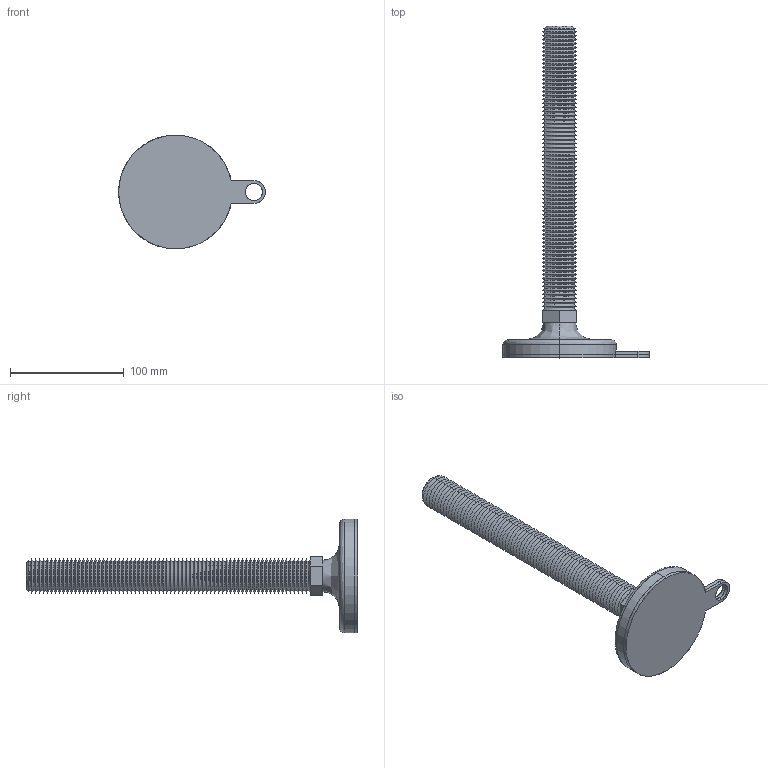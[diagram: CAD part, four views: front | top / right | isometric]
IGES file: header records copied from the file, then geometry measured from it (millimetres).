
Start section: SolidWorks IGES file using analytic representation for surfaces
Global section: file name: C:\Users\liam_\OneDrive\Documents\WORK\Work for WixRoyd\Job Files\J-00026 - Matt Davis CAD - 20191124\04. CAD Drawings\Wixroyd20191124\34704_v2\34704_v2_20191128_IGES\34704.W3003.igs; native system: SolidWorks 2017; preprocessor: SolidWorks 2017; author: liam_; date: 191128.203147; units: millimetre
Bounding box: 129 x 292 x 100 mm (x, y, z)
Surface area: 82213.8 mm2 (no closed solid volume)
Topology: 0 solids, 0 shells, 324 faces, 1946 edges, 1946 vertices
Faces by surface type: revolution 297, bspline 27
